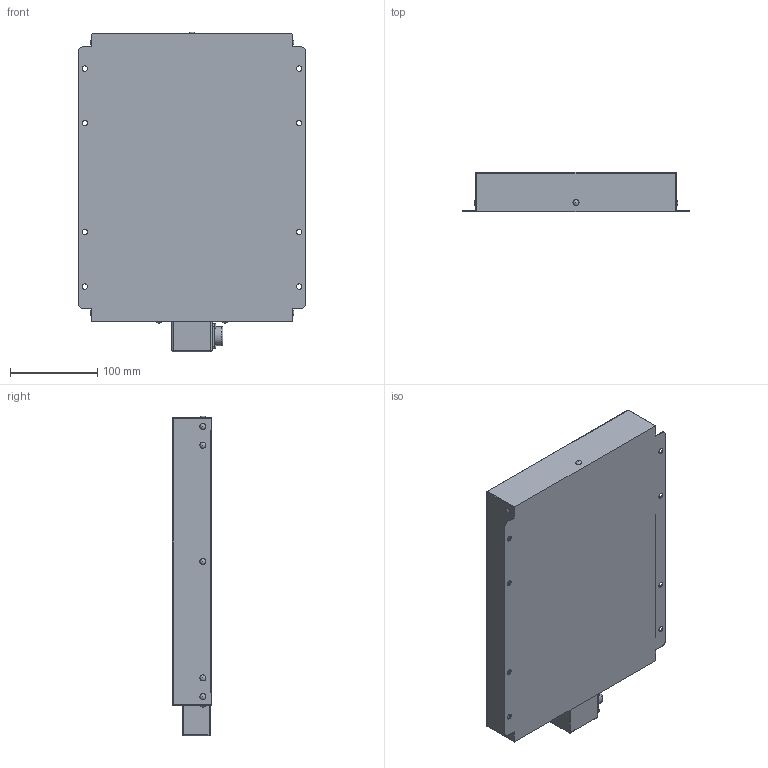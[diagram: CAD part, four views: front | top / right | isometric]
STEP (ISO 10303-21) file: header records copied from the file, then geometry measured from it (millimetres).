
FILE_DESCRIPTION (( 'STEP AP203' ), '1' );
FILE_NAME ('HDSBPA-300x200_-24.STEP', '2023-04-18T04:50:22', ( '' ), ( '' ), 'SwSTEP 2.0', 'SolidWorks 2022', '' );
FILE_SCHEMA (( 'CONFIG_CONTROL_DESIGN' ));
Length unit declared in the file: millimetre
Products named in the file (1): HDSBPA-300x200_-24
Bounding box: 260 x 45 x 366.9 mm (x, y, z)
Volume: 3421774.5 mm3; surface area: 226797.6 mm2
Topology: 1 solids, 1 shells, 111 faces, 306 edges, 196 vertices
Faces by surface type: cylinder 50, plane 35, sphere 21, torus 5
Full cylindrical faces by diameter (mm): 5.6 x4, 6.2 x8, 6.9 x13, 22 x1
Entity records: 2923 total; most frequent: DIRECTION 532, CARTESIAN_POINT 460, ORIENTED_EDGE 406, AXIS2_PLACEMENT_3D 217, EDGE_CURVE 203, EDGE_LOOP 178, VERTEX_POINT 145, FACE_OUTER_BOUND 142
